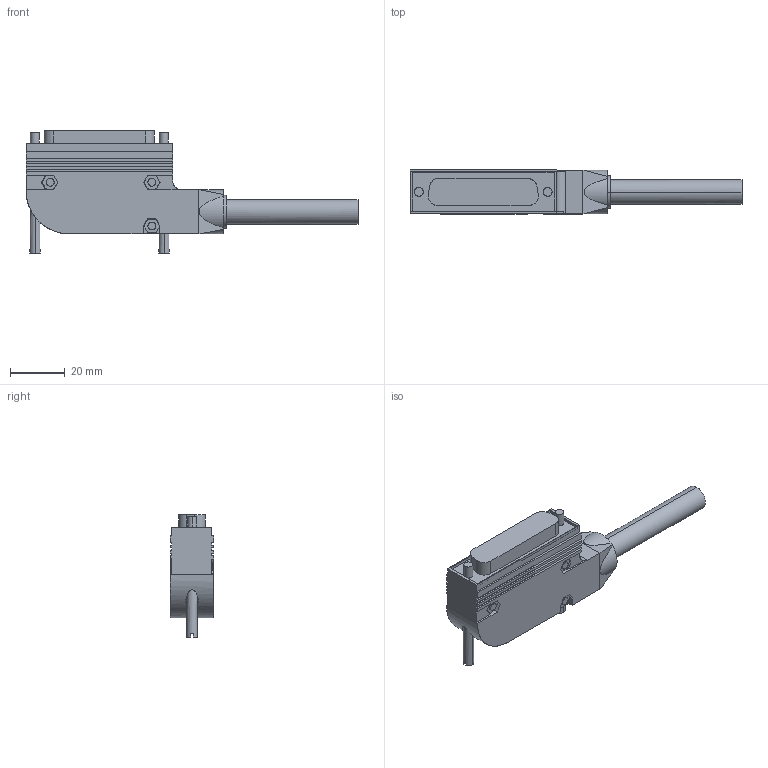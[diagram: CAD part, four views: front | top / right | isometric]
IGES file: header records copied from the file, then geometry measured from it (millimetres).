
Start section: --------------------------------------------------- ROBERT BOSCH GmbH, D-70442 Stuttgart Model-Name:      R402000782 Drawing-Name:    &dwg_name Format:          DIN &format Alle Rechte bei ROBERT BOSCH GmbH, auch fuer den Fall von Schutzrechtsanmeldungen. Jede Verfuegungs- befugnis, wie Kopier- und Weitergabe, bei uns. THIS DRAWING IS THE EXCLUSIVE PROPERTY OF ROBERT BOSCH GMBH. WITHOUT THEIR CONS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
Global section: file name: r402000782.igs; native system: Pro/ENGINEER by Parametric Technology Corporation; preprocessor: 2011490; author: mla1hc; organization: Unknown; date: 20150402.214128; units: millimetre
Bounding box: 121.1 x 16 x 44.58 mm (x, y, z)
Surface area: 10906.8 mm2 (no closed solid volume)
Topology: 0 solids, 0 shells, 208 faces, 1114 edges, 1114 vertices
Faces by surface type: bspline 141, revolution 67
